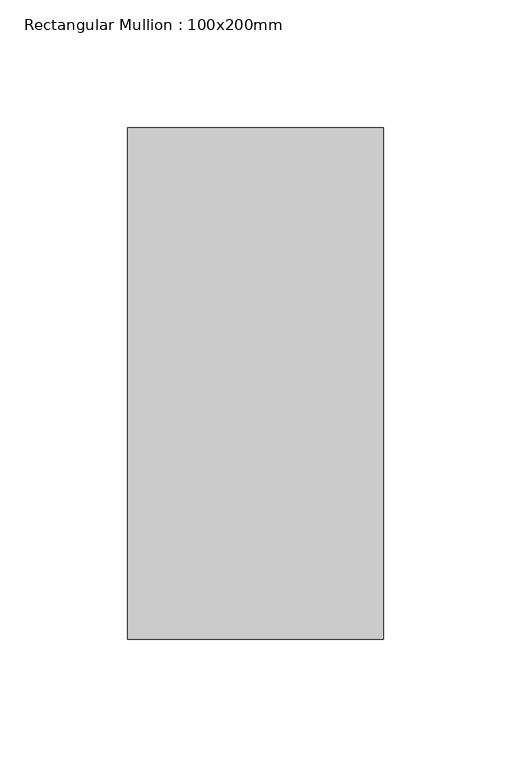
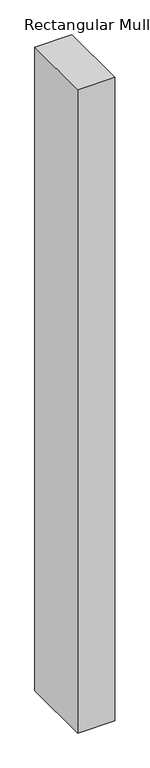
"""IFC4 building model written with IfcOpenShell, lengths in millimetres: member geometry, Rectangular Mullion : 100x200mm."""

from ifc_helpers import new_model, si_unit, frame, origin, place, context, project, spatial, polyline, outline, extrude, source, transform, mapped, element, save


def rectangular_mullion_100x200mm_8867363f(model_context):
    return source(origin(), model_context, "Body", "SweptSolid", [
        extrude(outline(polyline([(0.0, 100.0), (0.0, -100.0), (-100.0, -100.0), (-100.0, 100.0), (0.0, 100.0)])), frame((0.0, 0.0, -1837.5016241), z_axis=(0.0, 0.0, 1.0), x_axis=(1.0, 0.0, 0.0)), (0.0, 0.0, 1.0), 1837.5016241),
    ])


if __name__ == "__main__":
    model = new_model("IFC4")
    model_context = context("Model", 3, world=origin())
    ifc_project = project(units=[si_unit("LENGTHUNIT", "METRE", prefix="MILLI")], contexts=[model_context])
    site = spatial("IfcSite", under=ifc_project)
    building = spatial("IfcBuilding", under=site)
    placement = place(None, origin())
    rectangular_mullion_100x200mm_shape = rectangular_mullion_100x200mm_8867363f(model_context)
    element("IfcMember", 1, ObjectType="Rectangular Mullion : 100x200mm", at=placement, inside=building, context=model_context, shape_type="MappedRepresentation", body=[
        mapped(rectangular_mullion_100x200mm_shape, transform((0.0, 0.0, 0.0), x_axis=(1.0, 0.0, 0.0), y_axis=(0.0, 1.0, 0.0), z_axis=(0.0, 0.0, 1.0))),
    ])
    save(model, "model.ifc")
